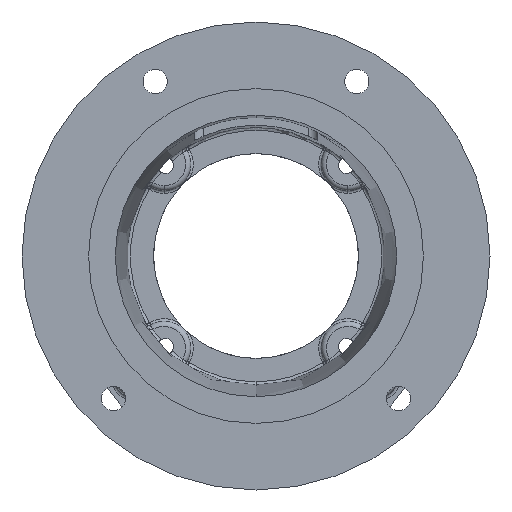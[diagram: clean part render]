
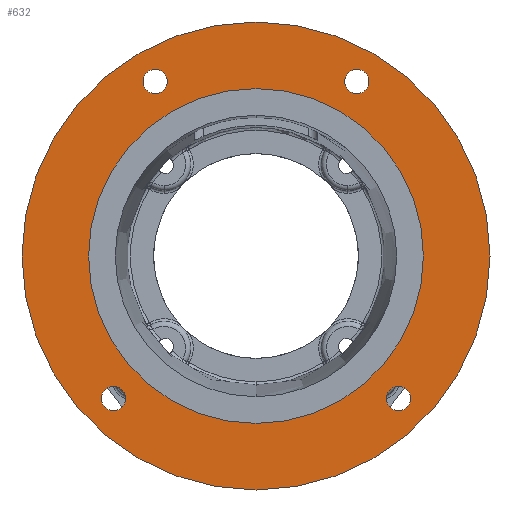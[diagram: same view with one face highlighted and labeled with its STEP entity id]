
A CAD part, front view. The second image highlights one B-rep face of the part: STEP entity #632.
In plain terms, the highlighted planar face has unit normal (0, -1, 0).
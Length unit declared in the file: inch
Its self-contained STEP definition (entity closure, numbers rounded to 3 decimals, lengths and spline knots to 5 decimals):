
#484 = CARTESIAN_POINT ( 'NONE',  ( -2.74004, 0., -2.50566 ) ) ;
#618 = DIRECTION ( 'NONE',  ( 0., -1., 0. ) ) ;
#632 = ADVANCED_FACE ( 'NONE', ( #11229, #2416, #2121, #8958, #6657, #4250 ), #2194, .F. ) ;
#656 = CARTESIAN_POINT ( 'NONE',  ( 1.9375, 0., 3.12147 ) ) ;
#844 = VERTEX_POINT ( 'NONE', #484 ) ;
#940 = CARTESIAN_POINT ( 'NONE',  ( -1.9375, 0., 3.12147 ) ) ;
#1072 = VERTEX_POINT ( 'NONE', #9796 ) ;
#1074 = ORIENTED_EDGE ( 'NONE', *, *, #6741, .F. ) ;
#1282 = DIRECTION ( 'NONE',  ( 0., 0., -1. ) ) ;
#1315 = DIRECTION ( 'NONE',  ( 0., -1., 0. ) ) ;
#1397 = ORIENTED_EDGE ( 'NONE', *, *, #10585, .F. ) ;
#1423 = CARTESIAN_POINT ( 'NONE',  ( 1.9375, 0., 3.35585 ) ) ;
#1486 = AXIS2_PLACEMENT_3D ( 'NONE', #4664, #4646, #4645 ) ;
#1529 = CIRCLE ( 'NONE', #9934, 0.23438 ) ;
#1680 = VERTEX_POINT ( 'NONE', #2699 ) ;
#1870 = DIRECTION ( 'NONE',  ( 0., 0., 1. ) ) ;
#1881 = DIRECTION ( 'NONE',  ( 0., 1., 0. ) ) ;
#1958 = CARTESIAN_POINT ( 'NONE',  ( -4.5, 0., 0. ) ) ;
#2121 = FACE_BOUND ( 'NONE', #5827, .T. ) ;
#2194 = PLANE ( 'NONE',  #6625 ) ;
#2302 = AXIS2_PLACEMENT_3D ( 'NONE', #8825, #3504, #9699 ) ;
#2415 = VERTEX_POINT ( 'NONE', #656 ) ;
#2416 = FACE_BOUND ( 'NONE', #6517, .T. ) ;
#2428 = ORIENTED_EDGE ( 'NONE', *, *, #11338, .F. ) ;
#2435 = ORIENTED_EDGE ( 'NONE', *, *, #7395, .T. ) ;
#2618 = DIRECTION ( 'NONE',  ( 0., -1., 0. ) ) ;
#2699 = CARTESIAN_POINT ( 'NONE',  ( 0., 0., 3.2195 ) ) ;
#2789 = ORIENTED_EDGE ( 'NONE', *, *, #3700, .F. ) ;
#2829 = EDGE_LOOP ( 'NONE', ( #2435, #9313 ) ) ;
#3069 = CARTESIAN_POINT ( 'NONE',  ( 1.9375, 0., 3.35585 ) ) ;
#3504 = DIRECTION ( 'NONE',  ( 0., -1., 0. ) ) ;
#3700 = EDGE_CURVE ( 'NONE', #7755, #844, #10276, .T. ) ;
#3796 = DIRECTION ( 'NONE',  ( 0., 0., -1. ) ) ;
#3816 = EDGE_CURVE ( 'NONE', #11162, #2415, #5068, .T. ) ;
#3835 = DIRECTION ( 'NONE',  ( 0., -1., 0. ) ) ;
#3856 = AXIS2_PLACEMENT_3D ( 'NONE', #3871, #3835, #3796 ) ;
#3871 = CARTESIAN_POINT ( 'NONE',  ( 0., 0., 0. ) ) ;
#3928 = DIRECTION ( 'NONE',  ( 0., -1., 0. ) ) ;
#3970 = DIRECTION ( 'NONE',  ( 0., 0., -1. ) ) ;
#4011 = EDGE_CURVE ( 'NONE', #1680, #7342, #10643, .T. ) ;
#4250 = FACE_OUTER_BOUND ( 'NONE', #2829, .T. ) ;
#4279 = CARTESIAN_POINT ( 'NONE',  ( -2.74004, 0., -2.74004 ) ) ;
#4505 = ORIENTED_EDGE ( 'NONE', *, *, #5487, .F. ) ;
#4563 = CIRCLE ( 'NONE', #10871, 0.23438 ) ;
#4576 = ORIENTED_EDGE ( 'NONE', *, *, #5320, .F. ) ;
#4577 = CARTESIAN_POINT ( 'NONE',  ( 1.9375, 0., 3.59022 ) ) ;
#4618 = ORIENTED_EDGE ( 'NONE', *, *, #8946, .F. ) ;
#4645 = DIRECTION ( 'NONE',  ( 0., 0., -1. ) ) ;
#4646 = DIRECTION ( 'NONE',  ( 0., -1., 0. ) ) ;
#4663 = AXIS2_PLACEMENT_3D ( 'NONE', #10061, #4797, #10903 ) ;
#4664 = CARTESIAN_POINT ( 'NONE',  ( 2.74004, 0., -2.74004 ) ) ;
#4797 = DIRECTION ( 'NONE',  ( 0., -1., 0. ) ) ;
#4957 = CARTESIAN_POINT ( 'NONE',  ( -1.9375, 0., 3.59022 ) ) ;
#5068 = CIRCLE ( 'NONE', #5322, 0.23438 ) ;
#5095 = ORIENTED_EDGE ( 'NONE', *, *, #4011, .F. ) ;
#5206 = DIRECTION ( 'NONE',  ( 0., 0., -1. ) ) ;
#5258 = VERTEX_POINT ( 'NONE', #8095 ) ;
#5261 = CIRCLE ( 'NONE', #11113, 0.23438 ) ;
#5320 = EDGE_CURVE ( 'NONE', #11180, #10946, #7285, .T. ) ;
#5322 = AXIS2_PLACEMENT_3D ( 'NONE', #1423, #1315, #1282 ) ;
#5487 = EDGE_CURVE ( 'NONE', #1072, #5803, #8220, .T. ) ;
#5803 = VERTEX_POINT ( 'NONE', #8656 ) ;
#5827 = EDGE_LOOP ( 'NONE', ( #1074, #4505 ) ) ;
#5868 = AXIS2_PLACEMENT_3D ( 'NONE', #9230, #3928, #10106 ) ;
#6068 = CARTESIAN_POINT ( 'NONE',  ( -1.9375, 0., 3.35585 ) ) ;
#6517 = EDGE_LOOP ( 'NONE', ( #2428, #7556 ) ) ;
#6625 = AXIS2_PLACEMENT_3D ( 'NONE', #1958, #1881, #1870 ) ;
#6651 = EDGE_LOOP ( 'NONE', ( #4576, #4618 ) ) ;
#6657 = FACE_BOUND ( 'NONE', #8559, .T. ) ;
#6741 = EDGE_CURVE ( 'NONE', #5803, #1072, #11155, .T. ) ;
#6962 = DIRECTION ( 'NONE',  ( 0., 0., -1. ) ) ;
#7267 = DIRECTION ( 'NONE',  ( 0., 0., -1. ) ) ;
#7282 = DIRECTION ( 'NONE',  ( 0., -1., 0. ) ) ;
#7285 = CIRCLE ( 'NONE', #8333, 0.23438 ) ;
#7290 = CARTESIAN_POINT ( 'NONE',  ( -1.9375, 0., 3.35585 ) ) ;
#7342 = VERTEX_POINT ( 'NONE', #7865 ) ;
#7395 = EDGE_CURVE ( 'NONE', #5258, #11024, #9421, .T. ) ;
#7556 = ORIENTED_EDGE ( 'NONE', *, *, #3816, .F. ) ;
#7755 = VERTEX_POINT ( 'NONE', #8525 ) ;
#7837 = EDGE_CURVE ( 'NONE', #11024, #5258, #8464, .T. ) ;
#7865 = CARTESIAN_POINT ( 'NONE',  ( 0., 0., -3.2195 ) ) ;
#7972 = CARTESIAN_POINT ( 'NONE',  ( 0., 0., 0. ) ) ;
#8095 = CARTESIAN_POINT ( 'NONE',  ( 0., 0., -4.5 ) ) ;
#8220 = CIRCLE ( 'NONE', #1486, 0.23438 ) ;
#8333 = AXIS2_PLACEMENT_3D ( 'NONE', #7290, #7282, #7267 ) ;
#8464 = CIRCLE ( 'NONE', #2302, 4.5 ) ;
#8487 = AXIS2_PLACEMENT_3D ( 'NONE', #10917, #10879, #10626 ) ;
#8525 = CARTESIAN_POINT ( 'NONE',  ( -2.74004, 0., -2.97441 ) ) ;
#8559 = EDGE_LOOP ( 'NONE', ( #10426, #5095 ) ) ;
#8645 = CARTESIAN_POINT ( 'NONE',  ( 0., 0., 4.5 ) ) ;
#8656 = CARTESIAN_POINT ( 'NONE',  ( 2.74004, 0., -2.97441 ) ) ;
#8825 = CARTESIAN_POINT ( 'NONE',  ( 0., 0., 0. ) ) ;
#8842 = DIRECTION ( 'NONE',  ( 0., 0., -1. ) ) ;
#8946 = EDGE_CURVE ( 'NONE', #10946, #11180, #4563, .T. ) ;
#8958 = FACE_BOUND ( 'NONE', #10825, .T. ) ;
#9230 = CARTESIAN_POINT ( 'NONE',  ( 2.74004, 0., -2.74004 ) ) ;
#9283 = DIRECTION ( 'NONE',  ( 0., -1., 0. ) ) ;
#9313 = ORIENTED_EDGE ( 'NONE', *, *, #7837, .T. ) ;
#9421 = CIRCLE ( 'NONE', #10647, 4.5 ) ;
#9699 = DIRECTION ( 'NONE',  ( 0., 0., -1. ) ) ;
#9796 = CARTESIAN_POINT ( 'NONE',  ( 2.74004, 0., -2.50566 ) ) ;
#9934 = AXIS2_PLACEMENT_3D ( 'NONE', #3069, #9283, #3970 ) ;
#10061 = CARTESIAN_POINT ( 'NONE',  ( 0., 0., 0. ) ) ;
#10106 = DIRECTION ( 'NONE',  ( 0., 0., -1. ) ) ;
#10276 = CIRCLE ( 'NONE', #8487, 0.23438 ) ;
#10425 = EDGE_CURVE ( 'NONE', #7342, #1680, #10685, .T. ) ;
#10426 = ORIENTED_EDGE ( 'NONE', *, *, #10425, .F. ) ;
#10430 = DIRECTION ( 'NONE',  ( 0., -1., 0. ) ) ;
#10585 = EDGE_CURVE ( 'NONE', #844, #7755, #5261, .T. ) ;
#10626 = DIRECTION ( 'NONE',  ( 0., 0., -1. ) ) ;
#10643 = CIRCLE ( 'NONE', #3856, 3.2195 ) ;
#10647 = AXIS2_PLACEMENT_3D ( 'NONE', #7972, #2618, #8842 ) ;
#10685 = CIRCLE ( 'NONE', #4663, 3.2195 ) ;
#10825 = EDGE_LOOP ( 'NONE', ( #2789, #1397 ) ) ;
#10871 = AXIS2_PLACEMENT_3D ( 'NONE', #6068, #618, #6962 ) ;
#10879 = DIRECTION ( 'NONE',  ( 0., -1., 0. ) ) ;
#10903 = DIRECTION ( 'NONE',  ( 0., 0., -1. ) ) ;
#10917 = CARTESIAN_POINT ( 'NONE',  ( -2.74004, 0., -2.74004 ) ) ;
#10946 = VERTEX_POINT ( 'NONE', #4957 ) ;
#11024 = VERTEX_POINT ( 'NONE', #8645 ) ;
#11113 = AXIS2_PLACEMENT_3D ( 'NONE', #4279, #10430, #5206 ) ;
#11155 = CIRCLE ( 'NONE', #5868, 0.23438 ) ;
#11162 = VERTEX_POINT ( 'NONE', #4577 ) ;
#11180 = VERTEX_POINT ( 'NONE', #940 ) ;
#11229 = FACE_BOUND ( 'NONE', #6651, .T. ) ;
#11338 = EDGE_CURVE ( 'NONE', #2415, #11162, #1529, .T. ) ;
